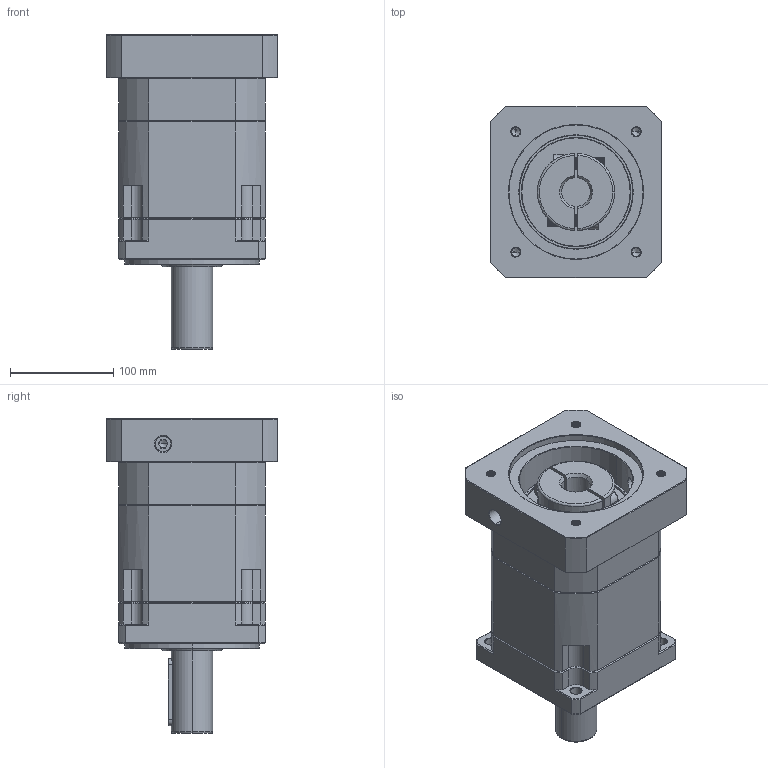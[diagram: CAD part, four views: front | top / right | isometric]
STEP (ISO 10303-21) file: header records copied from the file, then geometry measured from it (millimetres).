
FILE_DESCRIPTION (( 'STEP AP214' ), '1' );
FILE_NAME ('ZB142A-D40-L2-P2-28-130-165-M10.step', '2023-09-01T11:42:42', ( '' ), ( '' ), 'SwSTEP 2.0', 'SolidWorks 2016', '' );
FILE_SCHEMA (( 'AUTOMOTIVE_DESIGN' ));
Length unit declared in the file: millimetre
Products named in the file (1): ZB142A-D40-L2-P2-28-130-165-M10
Bounding box: 166 x 166 x 305.2 mm (x, y, z)
Volume: 4192663.6 mm3; surface area: 317234.5 mm2
Topology: 6 solids, 6 shells, 2318 faces, 6209 edges, 3998 vertices
Faces by surface type: plane 1102, cylinder 432, bspline 411, cone 351, torus 22
Entity records: 129349 total; most frequent: CARTESIAN_POINT 49212, ORIENTED_EDGE 12358, DIRECTION 9795, EDGE_CURVE 6179, VERTEX_POINT 3998, VECTOR 3903, LINE 3903, AXIS2_PLACEMENT_3D 2946
